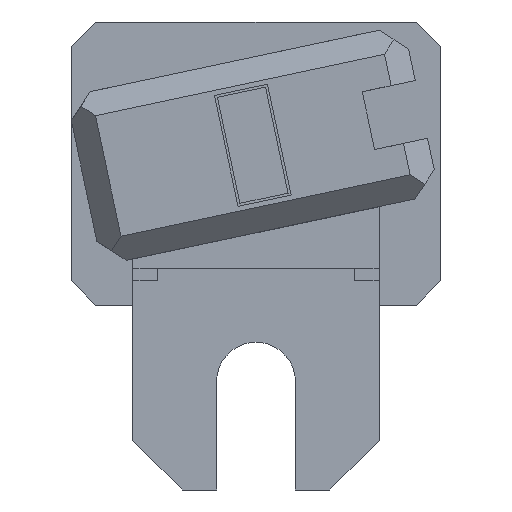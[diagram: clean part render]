
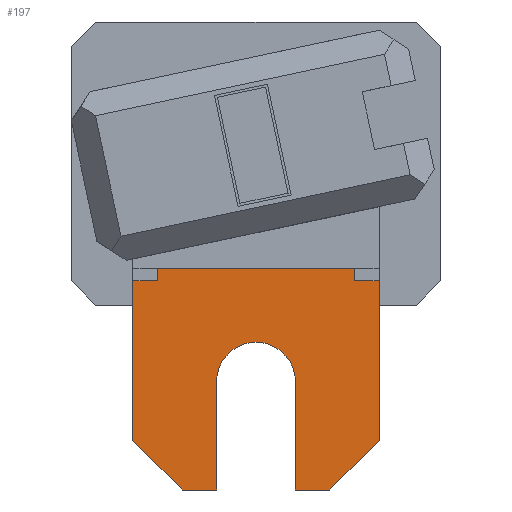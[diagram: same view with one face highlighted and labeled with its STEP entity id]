
A CAD part, left-side view. The second image highlights one B-rep face of the part: STEP entity #197.
In plain terms, the highlighted planar face has unit normal (-1, 0, 0).
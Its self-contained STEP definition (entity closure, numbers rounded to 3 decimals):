
#120=CIRCLE('',#2366,1.6);
#197=ADVANCED_FACE('',(#410),#310,.T.);
#310=PLANE('',#2367);
#410=FACE_OUTER_BOUND('',#527,.T.);
#527=EDGE_LOOP('',(#722,#723,#724,#725,#726,#727,#728,#729,#730,#731,#732,
#733,#734,#735));
#722=ORIENTED_EDGE('',*,*,#1547,.F.);
#723=ORIENTED_EDGE('',*,*,#1561,.T.);
#724=ORIENTED_EDGE('',*,*,#1526,.T.);
#725=ORIENTED_EDGE('',*,*,#1562,.T.);
#726=ORIENTED_EDGE('',*,*,#1563,.F.);
#727=ORIENTED_EDGE('',*,*,#1564,.F.);
#728=ORIENTED_EDGE('',*,*,#1565,.T.);
#729=ORIENTED_EDGE('',*,*,#1566,.T.);
#730=ORIENTED_EDGE('',*,*,#1534,.T.);
#731=ORIENTED_EDGE('',*,*,#1567,.F.);
#732=ORIENTED_EDGE('',*,*,#1568,.T.);
#733=ORIENTED_EDGE('',*,*,#1569,.F.);
#734=ORIENTED_EDGE('',*,*,#1570,.F.);
#735=ORIENTED_EDGE('',*,*,#1571,.F.);
#1317=VERTEX_POINT('',#3072);
#1318=VERTEX_POINT('',#3073);
#1325=VERTEX_POINT('',#3090);
#1326=VERTEX_POINT('',#3091);
#1338=VERTEX_POINT('',#3116);
#1339=VERTEX_POINT('',#3118);
#1350=VERTEX_POINT('',#3147);
#1351=VERTEX_POINT('',#3149);
#1352=VERTEX_POINT('',#3151);
#1353=VERTEX_POINT('',#3153);
#1354=VERTEX_POINT('',#3156);
#1355=VERTEX_POINT('',#3158);
#1356=VERTEX_POINT('',#3160);
#1357=VERTEX_POINT('',#3162);
#1526=EDGE_CURVE('',#1317,#1318,#1826,.T.);
#1534=EDGE_CURVE('',#1325,#1326,#1834,.T.);
#1547=EDGE_CURVE('',#1338,#1339,#1847,.T.);
#1561=EDGE_CURVE('',#1338,#1317,#1861,.T.);
#1562=EDGE_CURVE('',#1318,#1350,#1862,.T.);
#1563=EDGE_CURVE('',#1351,#1350,#120,.T.);
#1564=EDGE_CURVE('',#1352,#1351,#1863,.T.);
#1565=EDGE_CURVE('',#1352,#1353,#1864,.T.);
#1566=EDGE_CURVE('',#1353,#1325,#1865,.T.);
#1567=EDGE_CURVE('',#1354,#1326,#1866,.T.);
#1568=EDGE_CURVE('',#1354,#1355,#1867,.T.);
#1569=EDGE_CURVE('',#1356,#1355,#1868,.T.);
#1570=EDGE_CURVE('',#1357,#1356,#1869,.T.);
#1571=EDGE_CURVE('',#1339,#1357,#1870,.T.);
#1826=LINE('',#3071,#2096);
#1834=LINE('',#3089,#2104);
#1847=LINE('',#3117,#2117);
#1861=LINE('',#3145,#2131);
#1862=LINE('',#3146,#2132);
#1863=LINE('',#3150,#2133);
#1864=LINE('',#3152,#2134);
#1865=LINE('',#3154,#2135);
#1866=LINE('',#3155,#2136);
#1867=LINE('',#3157,#2137);
#1868=LINE('',#3159,#2138);
#1869=LINE('',#3161,#2139);
#1870=LINE('',#3163,#2140);
#2096=VECTOR('',#2490,1.);
#2104=VECTOR('',#2502,1.);
#2117=VECTOR('',#2517,1.);
#2131=VECTOR('',#2537,1.);
#2132=VECTOR('',#2538,1.);
#2133=VECTOR('',#2541,1.);
#2134=VECTOR('',#2542,1.);
#2135=VECTOR('',#2543,1.);
#2136=VECTOR('',#2544,1.);
#2137=VECTOR('',#2545,1.);
#2138=VECTOR('',#2546,1.);
#2139=VECTOR('',#2547,1.);
#2140=VECTOR('',#2548,1.);
#2366=AXIS2_PLACEMENT_3D('',#3148,#2539,#2540);
#2367=AXIS2_PLACEMENT_3D('',#3164,#2549,#2550);
#2490=DIRECTION('',(0.,-1.,0.));
#2502=DIRECTION('',(0.,0.,1.));
#2517=DIRECTION('',(0.,0.,1.));
#2537=DIRECTION('',(0.,-0.707,-0.707));
#2538=DIRECTION('',(0.,0.,1.));
#2539=DIRECTION('',(-1.,0.,0.));
#2540=DIRECTION('',(0.,0.,1.));
#2541=DIRECTION('',(0.,0.,1.));
#2542=DIRECTION('',(0.,-1.,0.));
#2543=DIRECTION('',(0.,-0.707,0.707));
#2544=DIRECTION('',(0.,-1.,0.));
#2545=DIRECTION('',(0.,0.,1.));
#2546=DIRECTION('',(0.,-1.,0.));
#2547=DIRECTION('',(0.,0.,1.));
#2548=DIRECTION('',(0.,-1.,0.));
#2549=DIRECTION('',(-1.,0.,0.));
#2550=DIRECTION('',(0.,0.,1.));
#3071=CARTESIAN_POINT('',(0.,0.,-4.4));
#3072=CARTESIAN_POINT('',(0.,3.,-4.4));
#3073=CARTESIAN_POINT('',(0.,1.6,-4.4));
#3089=CARTESIAN_POINT('',(0.,-5.,-4.4));
#3090=CARTESIAN_POINT('',(0.,-5.,-2.4));
#3091=CARTESIAN_POINT('',(0.,-5.,4.1));
#3116=CARTESIAN_POINT('',(0.,5.,-2.4));
#3117=CARTESIAN_POINT('',(0.,5.,-4.4));
#3118=CARTESIAN_POINT('',(0.,5.,4.1));
#3145=CARTESIAN_POINT('',(0.,1.5,-5.9));
#3146=CARTESIAN_POINT('',(0.,1.6,-2.4));
#3147=CARTESIAN_POINT('',(0.,1.6,0.));
#3148=CARTESIAN_POINT('',(0.,0.,0.));
#3149=CARTESIAN_POINT('',(0.,-1.6,0.));
#3150=CARTESIAN_POINT('',(0.,-1.6,-2.4));
#3151=CARTESIAN_POINT('',(0.,-1.6,-4.4));
#3152=CARTESIAN_POINT('',(0.,0.,-4.4));
#3153=CARTESIAN_POINT('',(0.,-3.,-4.4));
#3154=CARTESIAN_POINT('',(0.,-1.5,-5.9));
#3155=CARTESIAN_POINT('',(0.,-4.,4.1));
#3156=CARTESIAN_POINT('',(0.,-4.,4.1));
#3157=CARTESIAN_POINT('',(0.,-4.,4.1));
#3158=CARTESIAN_POINT('',(0.,-4.,4.6));
#3159=CARTESIAN_POINT('',(0.,5.,4.6));
#3160=CARTESIAN_POINT('',(0.,4.,4.6));
#3161=CARTESIAN_POINT('',(0.,4.,4.1));
#3162=CARTESIAN_POINT('',(0.,4.,4.1));
#3163=CARTESIAN_POINT('',(0.,5.,4.1));
#3164=CARTESIAN_POINT('',(0.,0.,-4.4));
